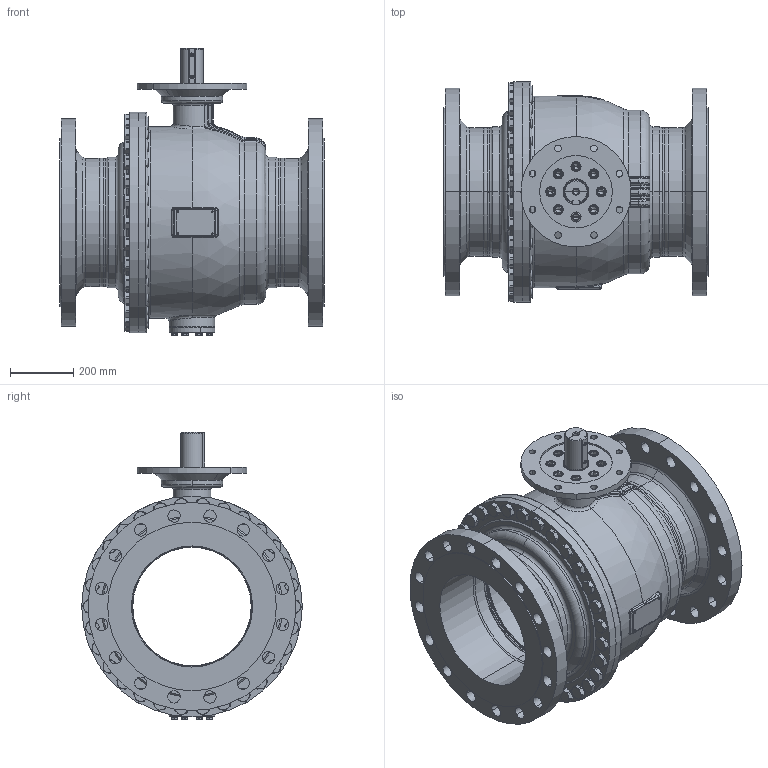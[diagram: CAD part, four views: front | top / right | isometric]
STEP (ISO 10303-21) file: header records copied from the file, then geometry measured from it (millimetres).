
FILE_DESCRIPTION((''),'2;1');
FILE_NAME('KHI-F_400_PN040-F30-P_SW0001','2026-02-05T16:22:32',('fischerkl'),('KLINGER'),'CREO PARAMETRIC BY PTC INC, 2023014','CREO PARAMETRIC BY PTC INC, 2023014','');
FILE_SCHEMA(('CONFIG_CONTROL_DESIGN'));
Products named in the file (1): KHI-F_400_PN040-F30-P_SW0001
Bounding box: 838 x 700 x 911.3 mm (x, y, z)
Volume: 66230821.7 mm3; surface area: 7446677.3 mm2
Topology: 1 solids, 4 shells, 3573 faces, 9006 edges, 5628 vertices
Faces by surface type: plane 1771, cylinder 857, cone 504, torus 311, bspline 99, sphere 31
Entity records: 153117 total; most frequent: CARTESIAN_POINT 68040, ORIENTED_EDGE 17960, DIRECTION 17616, EDGE_CURVE 8980, AXIS2_PLACEMENT_3D 6762, VERTEX_POINT 5628, VECTOR 4092, LINE 4092
